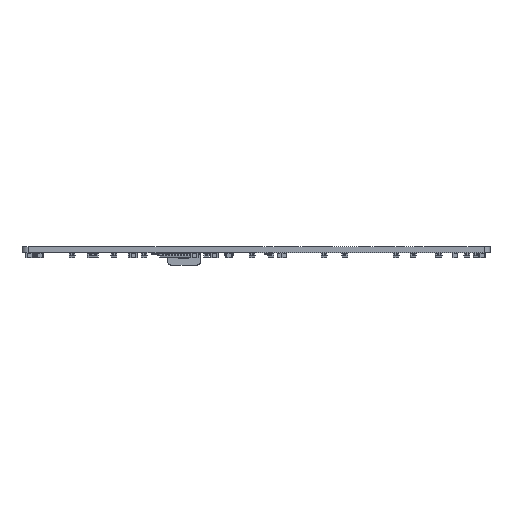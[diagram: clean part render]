
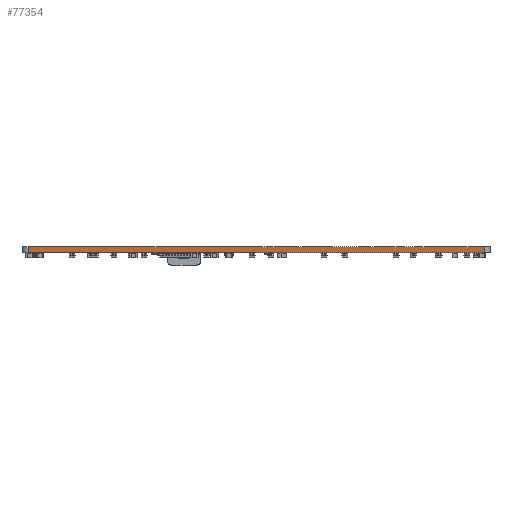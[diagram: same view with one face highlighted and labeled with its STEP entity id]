
A CAD part, front view. The second image highlights one B-rep face of the part: STEP entity #77354.
In plain terms, the highlighted planar face has unit normal (0, -1, 0).
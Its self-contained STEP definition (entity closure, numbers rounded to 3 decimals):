
#77354 = ADVANCED_FACE('',(#77355),#77369,.T.);
#77355 = FACE_BOUND('',#77356,.T.);
#77356 = EDGE_LOOP('',(#77357,#77392,#77420,#77448));
#77357 = ORIENTED_EDGE('',*,*,#77358,.T.);
#77358 = EDGE_CURVE('',#77359,#77361,#77363,.T.);
#77359 = VERTEX_POINT('',#77360);
#77360 = CARTESIAN_POINT('',(145.838,-147.125,0.));
#77361 = VERTEX_POINT('',#77362);
#77362 = CARTESIAN_POINT('',(145.838,-147.125,1.6));
#77363 = SURFACE_CURVE('',#77364,(#77368,#77380),.PCURVE_S1.);
#77364 = LINE('',#77365,#77366);
#77365 = CARTESIAN_POINT('',(145.838,-147.125,0.));
#77366 = VECTOR('',#77367,1.);
#77367 = DIRECTION('',(0.,0.,1.));
#77368 = PCURVE('',#77369,#77374);
#77369 = PLANE('',#77370);
#77370 = AXIS2_PLACEMENT_3D('',#77371,#77372,#77373);
#77371 = CARTESIAN_POINT('',(145.838,-147.125,0.));
#77372 = DIRECTION('',(0.,-1.,0.));
#77373 = DIRECTION('',(-1.,0.,0.));
#77374 = DEFINITIONAL_REPRESENTATION('',(#77375),#77379);
#77375 = LINE('',#77376,#77377);
#77376 = CARTESIAN_POINT('',(0.,-0.));
#77377 = VECTOR('',#77378,1.);
#77378 = DIRECTION('',(0.,-1.));
#77379 = ( GEOMETRIC_REPRESENTATION_CONTEXT(2) 
PARAMETRIC_REPRESENTATION_CONTEXT() REPRESENTATION_CONTEXT('2D SPACE',''
  ) );
#77380 = PCURVE('',#77381,#77386);
#77381 = CYLINDRICAL_SURFACE('',#77382,1.588);
#77382 = AXIS2_PLACEMENT_3D('',#77383,#77384,#77385);
#77383 = CARTESIAN_POINT('',(145.838,-145.538,0.));
#77384 = DIRECTION('',(-0.,-0.,-1.));
#77385 = DIRECTION('',(1.,0.,-0.));
#77386 = DEFINITIONAL_REPRESENTATION('',(#77387),#77391);
#77387 = LINE('',#77388,#77389);
#77388 = CARTESIAN_POINT('',(-4.712,0.));
#77389 = VECTOR('',#77390,1.);
#77390 = DIRECTION('',(-0.,-1.));
#77391 = ( GEOMETRIC_REPRESENTATION_CONTEXT(2) 
PARAMETRIC_REPRESENTATION_CONTEXT() REPRESENTATION_CONTEXT('2D SPACE',''
  ) );
#77392 = ORIENTED_EDGE('',*,*,#77393,.T.);
#77393 = EDGE_CURVE('',#77361,#77394,#77396,.T.);
#77394 = VERTEX_POINT('',#77395);
#77395 = CARTESIAN_POINT('',(25.188,-147.125,1.6));
#77396 = SURFACE_CURVE('',#77397,(#77401,#77408),.PCURVE_S1.);
#77397 = LINE('',#77398,#77399);
#77398 = CARTESIAN_POINT('',(145.838,-147.125,1.6));
#77399 = VECTOR('',#77400,1.);
#77400 = DIRECTION('',(-1.,0.,0.));
#77401 = PCURVE('',#77369,#77402);
#77402 = DEFINITIONAL_REPRESENTATION('',(#77403),#77407);
#77403 = LINE('',#77404,#77405);
#77404 = CARTESIAN_POINT('',(0.,-1.6));
#77405 = VECTOR('',#77406,1.);
#77406 = DIRECTION('',(1.,0.));
#77407 = ( GEOMETRIC_REPRESENTATION_CONTEXT(2) 
PARAMETRIC_REPRESENTATION_CONTEXT() REPRESENTATION_CONTEXT('2D SPACE',''
  ) );
#77408 = PCURVE('',#77409,#77414);
#77409 = PLANE('',#77410);
#77410 = AXIS2_PLACEMENT_3D('',#77411,#77412,#77413);
#77411 = CARTESIAN_POINT('',(85.513,-99.5,1.6));
#77412 = DIRECTION('',(-0.,-0.,-1.));
#77413 = DIRECTION('',(-1.,0.,0.));
#77414 = DEFINITIONAL_REPRESENTATION('',(#77415),#77419);
#77415 = LINE('',#77416,#77417);
#77416 = CARTESIAN_POINT('',(-60.325,-47.625));
#77417 = VECTOR('',#77418,1.);
#77418 = DIRECTION('',(1.,0.));
#77419 = ( GEOMETRIC_REPRESENTATION_CONTEXT(2) 
PARAMETRIC_REPRESENTATION_CONTEXT() REPRESENTATION_CONTEXT('2D SPACE',''
  ) );
#77420 = ORIENTED_EDGE('',*,*,#77421,.F.);
#77421 = EDGE_CURVE('',#77422,#77394,#77424,.T.);
#77422 = VERTEX_POINT('',#77423);
#77423 = CARTESIAN_POINT('',(25.188,-147.125,0.));
#77424 = SURFACE_CURVE('',#77425,(#77429,#77436),.PCURVE_S1.);
#77425 = LINE('',#77426,#77427);
#77426 = CARTESIAN_POINT('',(25.188,-147.125,0.));
#77427 = VECTOR('',#77428,1.);
#77428 = DIRECTION('',(0.,0.,1.));
#77429 = PCURVE('',#77369,#77430);
#77430 = DEFINITIONAL_REPRESENTATION('',(#77431),#77435);
#77431 = LINE('',#77432,#77433);
#77432 = CARTESIAN_POINT('',(120.65,0.));
#77433 = VECTOR('',#77434,1.);
#77434 = DIRECTION('',(0.,-1.));
#77435 = ( GEOMETRIC_REPRESENTATION_CONTEXT(2) 
PARAMETRIC_REPRESENTATION_CONTEXT() REPRESENTATION_CONTEXT('2D SPACE',''
  ) );
#77436 = PCURVE('',#77437,#77442);
#77437 = CYLINDRICAL_SURFACE('',#77438,1.588);
#77438 = AXIS2_PLACEMENT_3D('',#77439,#77440,#77441);
#77439 = CARTESIAN_POINT('',(25.188,-145.538,0.));
#77440 = DIRECTION('',(-0.,-0.,-1.));
#77441 = DIRECTION('',(1.,0.,-0.));
#77442 = DEFINITIONAL_REPRESENTATION('',(#77443),#77447);
#77443 = LINE('',#77444,#77445);
#77444 = CARTESIAN_POINT('',(-4.712,0.));
#77445 = VECTOR('',#77446,1.);
#77446 = DIRECTION('',(-0.,-1.));
#77447 = ( GEOMETRIC_REPRESENTATION_CONTEXT(2) 
PARAMETRIC_REPRESENTATION_CONTEXT() REPRESENTATION_CONTEXT('2D SPACE',''
  ) );
#77448 = ORIENTED_EDGE('',*,*,#77449,.F.);
#77449 = EDGE_CURVE('',#77359,#77422,#77450,.T.);
#77450 = SURFACE_CURVE('',#77451,(#77455,#77462),.PCURVE_S1.);
#77451 = LINE('',#77452,#77453);
#77452 = CARTESIAN_POINT('',(145.838,-147.125,0.));
#77453 = VECTOR('',#77454,1.);
#77454 = DIRECTION('',(-1.,0.,0.));
#77455 = PCURVE('',#77369,#77456);
#77456 = DEFINITIONAL_REPRESENTATION('',(#77457),#77461);
#77457 = LINE('',#77458,#77459);
#77458 = CARTESIAN_POINT('',(0.,-0.));
#77459 = VECTOR('',#77460,1.);
#77460 = DIRECTION('',(1.,0.));
#77461 = ( GEOMETRIC_REPRESENTATION_CONTEXT(2) 
PARAMETRIC_REPRESENTATION_CONTEXT() REPRESENTATION_CONTEXT('2D SPACE',''
  ) );
#77462 = PCURVE('',#77463,#77468);
#77463 = PLANE('',#77464);
#77464 = AXIS2_PLACEMENT_3D('',#77465,#77466,#77467);
#77465 = CARTESIAN_POINT('',(85.513,-99.5,0.));
#77466 = DIRECTION('',(-0.,-0.,-1.));
#77467 = DIRECTION('',(-1.,0.,0.));
#77468 = DEFINITIONAL_REPRESENTATION('',(#77469),#77473);
#77469 = LINE('',#77470,#77471);
#77470 = CARTESIAN_POINT('',(-60.325,-47.625));
#77471 = VECTOR('',#77472,1.);
#77472 = DIRECTION('',(1.,0.));
#77473 = ( GEOMETRIC_REPRESENTATION_CONTEXT(2) 
PARAMETRIC_REPRESENTATION_CONTEXT() REPRESENTATION_CONTEXT('2D SPACE',''
  ) );
